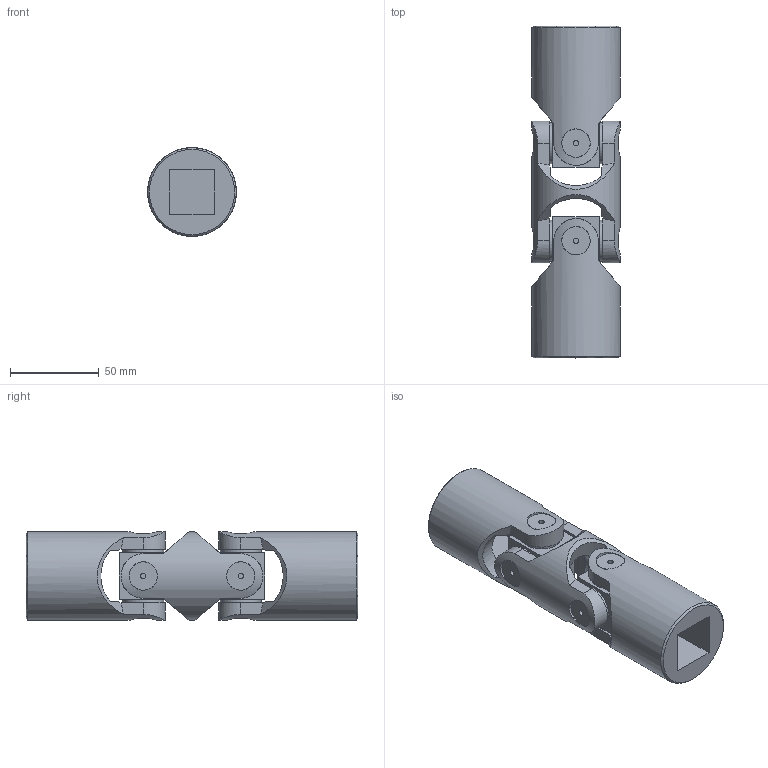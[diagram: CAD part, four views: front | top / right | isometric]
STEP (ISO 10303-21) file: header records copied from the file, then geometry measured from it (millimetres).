
FILE_DESCRIPTION(/* description */ (''),/* implementation_level */ '2;1');
FILE_NAME(/* name */ '\\SRV2016\Societa\Stefano\Disegni 3D\00Catalogo 3D\02Doppi GD-GBD\SGBD252Q.stp',/* time_stamp */ '2021-11-23T15:43:14+01:00',/* author */ ('acquisti'),/* organization */ (''),/* preprocessor_version */ 'ST-DEVELOPER v15.6',/* originating_system */ 'Autodesk Inventor 2015',/* authorisation */ '');
FILE_SCHEMA (('AUTOMOTIVE_DESIGN { 1 0 10303 214 3 1 1 }'));
Length unit declared in the file: millimetre
Products named in the file (4): 5G MOD; 5G SFE; 6GB MOQ; Ø50_6GBD-00_SGBD3000
Assembly tree (5 placements, depth 2):
  Ø50_6GBD-00_SGBD3000
    5G MOD
    5G SFE  x2
    6GB MOQ  x2
Bounding box: 50 x 187 x 50 mm (x, y, z)
Volume: 232113.2 mm3; surface area: 59069 mm2
Topology: 5 solids, 5 shells, 155 faces, 387 edges, 262 vertices
Faces by surface type: plane 78, cylinder 45, cone 28, torus 4
Full cylindrical faces by diameter (mm): 3 x8, 16 x8, 23 x8, 28 x2, 50 x3
Entity records: 3678 total; most frequent: CARTESIAN_POINT 1335, ORIENTED_EDGE 464, DIRECTION 438, EDGE_CURVE 232, AXIS2_PLACEMENT_3D 187, VERTEX_POINT 174, EDGE_LOOP 146, FACE_OUTER_BOUND 103
